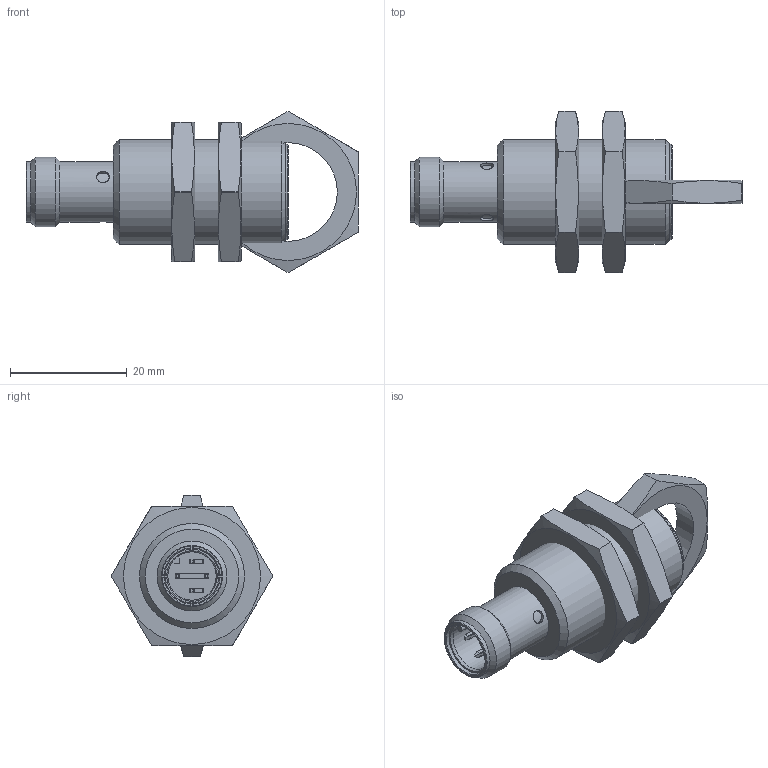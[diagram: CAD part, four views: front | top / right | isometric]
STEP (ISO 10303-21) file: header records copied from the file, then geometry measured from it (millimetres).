
FILE_DESCRIPTION( ( 'Unknown' ), '1' );
FILE_NAME( 'X:/SolidEdge/Models/Dokumentationen/Induktiv/IxRx 18_2011/Vereinfachte Modelle/Neutralformate/IFRM 18xxxA5_S14L.stp', 'Unknown', ( 'Unknown' ), ( 'Unknown' ), 'PSStep 14.0', 'Unknown', ' ' );
FILE_SCHEMA( ( 'AUTOMOTIVE_DESIGN { 1 0 10303 214 1 1 1 1 }' ) );
Length unit declared in the file: millimetre
Products named in the file (3): Assem1; IFRM 18xxxA5_S14L_oA; 101474
Bounding box: 56.95 x 27.71 x 27.71 mm (x, y, z)
Volume: 20036.4 mm3; surface area: 9325.2 mm2
Topology: 5 solids, 5 shells, 261 faces, 688 edges, 455 vertices
Faces by surface type: plane 152, cylinder 85, cone 24
Full cylindrical faces by diameter (mm): 2.2 x6, 9.45 x2, 10.45 x4, 12 x2, 16.4 x2, 16.917 x3, 18 x2
Entity records: 4810 total; most frequent: CARTESIAN_POINT 913, DIRECTION 606, ORIENTED_EDGE 576, EDGE_CURVE 288, AXIS2_PLACEMENT_3D 210, VERTEX_POINT 201, LINE 186, VECTOR 186
